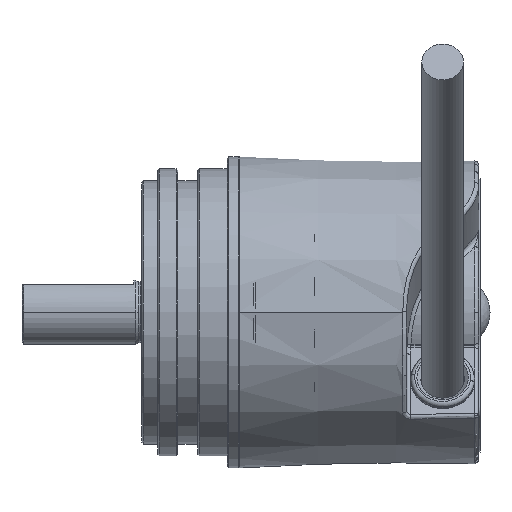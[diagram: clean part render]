
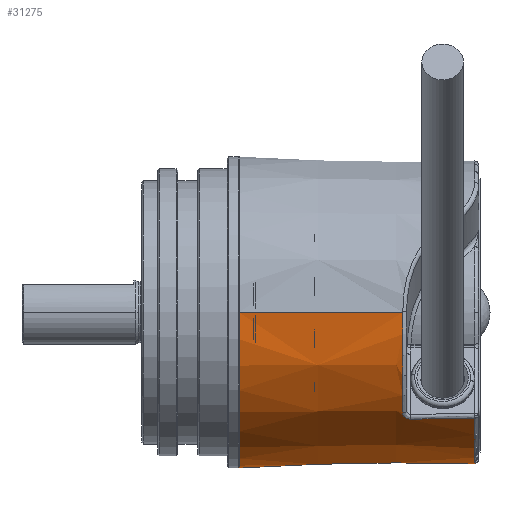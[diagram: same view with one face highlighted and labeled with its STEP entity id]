
A CAD part, front view. The second image highlights one B-rep face of the part: STEP entity #31275.
In plain terms, the highlighted conical face has half-angle 1 degrees and reference radius 18.976 mm.
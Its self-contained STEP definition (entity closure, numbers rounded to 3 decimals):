
#3295 = CARTESIAN_POINT ( 'NONE',  ( 12.2, 19.5, 0. ) ) ;
#3296 = CARTESIAN_POINT ( 'NONE',  ( 12.2, -19.5, 0. ) ) ;
#3360 = CARTESIAN_POINT ( 'NONE',  ( 32.709, -19.142, 0. ) ) ;
#3386 = CARTESIAN_POINT ( 'NONE',  ( 41.709, 18.985, 0. ) ) ;
#3652 = DIRECTION ( 'NONE',  ( -1., 0.017, 0. ) ) ;
#3653 = VECTOR ( 'NONE', #3652, 1000. ) ;
#3654 = CARTESIAN_POINT ( 'NONE',  ( 42.2, 18.976, 0. ) ) ;
#3656 = LINE ( 'NONE', #3654, #3653 ) ;
#3657 = DIRECTION ( 'NONE',  ( -1., -0.017, 0. ) ) ;
#3658 = VECTOR ( 'NONE', #3657, 1000. ) ;
#3659 = CARTESIAN_POINT ( 'NONE',  ( 42.2, -18.976, 0. ) ) ;
#3660 = LINE ( 'NONE', #3659, #3658 ) ;
#3839 = CARTESIAN_POINT ( 'NONE',  ( 41.709, -13.586, -13.261 ) ) ;
#7872 = CARTESIAN_POINT ( 'NONE',  ( 41.709, -13.586, -13.261 ) ) ;
#7874 = CARTESIAN_POINT ( 'NONE',  ( 32.709, -14.397, -12.615 ) ) ;
#7883 = CARTESIAN_POINT ( 'NONE',  ( 33.709, -13.658, -13.387 ) ) ;
#7885 = B_SPLINE_CURVE_WITH_KNOTS ( 'NONE', 3,
 ( #7872, #7977, #7976, #7975, #7974, #7973, #7972, #7971, #7969, #7967 ),
 .UNSPECIFIED., .F., .F.,
 ( 4, 3, 3, 4 ),
 ( 0., 0.001, 0.005, 0.008 ),
 .UNSPECIFIED. ) ;
#7886 = DIRECTION ( 'NONE',  ( 0., 1., 0. ) ) ;
#7887 = DIRECTION ( 'NONE',  ( -1., 0., 0. ) ) ;
#7888 = CARTESIAN_POINT ( 'NONE',  ( 41.709, 0., 0. ) ) ;
#7889 = AXIS2_PLACEMENT_3D ( 'NONE', #7888, #7887, #7886 ) ;
#7896 = CIRCLE ( 'NONE', #7889, 18.985 ) ;
#7936 = DIRECTION ( 'NONE',  ( 0., -1., 0. ) ) ;
#7937 = DIRECTION ( 'NONE',  ( -1., 0., 0. ) ) ;
#7938 = CARTESIAN_POINT ( 'NONE',  ( 32.709, 0., 0. ) ) ;
#7941 = CARTESIAN_POINT ( 'NONE',  ( 33.709, -13.658, -13.387 ) ) ;
#7942 = CARTESIAN_POINT ( 'NONE',  ( 33.572, -13.659, -13.389 ) ) ;
#7943 = CARTESIAN_POINT ( 'NONE',  ( 33.437, -13.681, -13.37 ) ) ;
#7944 = CARTESIAN_POINT ( 'NONE',  ( 33.19, -13.762, -13.293 ) ) ;
#7946 = CARTESIAN_POINT ( 'NONE',  ( 33.079, -13.821, -13.235 ) ) ;
#7947 = CARTESIAN_POINT ( 'NONE',  ( 32.898, -13.961, -13.091 ) ) ;
#7948 = CARTESIAN_POINT ( 'NONE',  ( 32.827, -14.044, -13.005 ) ) ;
#7949 = CARTESIAN_POINT ( 'NONE',  ( 32.733, -14.216, -12.819 ) ) ;
#7950 = CARTESIAN_POINT ( 'NONE',  ( 32.709, -14.307, -12.718 ) ) ;
#7952 = CARTESIAN_POINT ( 'NONE',  ( 32.709, -14.397, -12.615 ) ) ;
#7954 = AXIS2_PLACEMENT_3D ( 'NONE', #7938, #7937, #7936 ) ;
#7961 = CIRCLE ( 'NONE', #7954, 19.142 ) ;
#7964 = B_SPLINE_CURVE_WITH_KNOTS ( 'NONE', 3,
 ( #7952, #7950, #7949, #7948, #7947, #7946, #7944, #7943, #7942, #7941 ),
 .UNSPECIFIED., .F., .F.,
 ( 4, 2, 2, 2, 4 ),
 ( 0., 0., 0.001, 0.001, 0.002 ),
 .UNSPECIFIED. ) ;
#7967 = CARTESIAN_POINT ( 'NONE',  ( 33.709, -13.658, -13.387 ) ) ;
#7969 = CARTESIAN_POINT ( 'NONE',  ( 34.709, -13.649, -13.371 ) ) ;
#7971 = CARTESIAN_POINT ( 'NONE',  ( 35.709, -13.64, -13.356 ) ) ;
#7972 = CARTESIAN_POINT ( 'NONE',  ( 36.71, -13.631, -13.34 ) ) ;
#7973 = CARTESIAN_POINT ( 'NONE',  ( 38.043, -13.619, -13.319 ) ) ;
#7974 = CARTESIAN_POINT ( 'NONE',  ( 39.376, -13.607, -13.298 ) ) ;
#7975 = CARTESIAN_POINT ( 'NONE',  ( 40.709, -13.595, -13.277 ) ) ;
#7976 = CARTESIAN_POINT ( 'NONE',  ( 41.042, -13.592, -13.271 ) ) ;
#7977 = CARTESIAN_POINT ( 'NONE',  ( 41.375, -13.589, -13.266 ) ) ;
#19870 = CONICAL_SURFACE ( 'NONE', #19998, 18.976, 0.017 ) ;
#19886 = FACE_OUTER_BOUND ( 'NONE', #31098, .T. ) ;
#19994 = DIRECTION ( 'NONE',  ( 0., -1., 0. ) ) ;
#19996 = DIRECTION ( 'NONE',  ( -1., 0., 0. ) ) ;
#19997 = CARTESIAN_POINT ( 'NONE',  ( 42.2, 0., 0. ) ) ;
#19998 = AXIS2_PLACEMENT_3D ( 'NONE', #19997, #19996, #19994 ) ;
#21856 = DIRECTION ( 'NONE',  ( 0., -1., 0. ) ) ;
#21857 = DIRECTION ( 'NONE',  ( -1., 0., 0. ) ) ;
#21905 = CARTESIAN_POINT ( 'NONE',  ( 12.2, 0., 0. ) ) ;
#21907 = AXIS2_PLACEMENT_3D ( 'NONE', #21905, #21857, #21856 ) ;
#21910 = CIRCLE ( 'NONE', #21907, 19.5 ) ;
#29897 = EDGE_CURVE ( 'NONE', #41512, #41508, #21910, .T. ) ;
#31098 = EDGE_LOOP ( 'NONE', ( #31099, #31100, #31103, #31107, #31112, #31115, #31116 ) ) ;
#31099 = ORIENTED_EDGE ( 'NONE', *, *, #41584, .F. ) ;
#31100 = ORIENTED_EDGE ( 'NONE', *, *, #31101, .T. ) ;
#31101 = EDGE_CURVE ( 'NONE', #41525, #41617, #7896, .T. ) ;
#31103 = ORIENTED_EDGE ( 'NONE', *, *, #31105, .T. ) ;
#31105 = EDGE_CURVE ( 'NONE', #41617, #31106, #7885, .T. ) ;
#31106 = VERTEX_POINT ( 'NONE', #7883 ) ;
#31107 = ORIENTED_EDGE ( 'NONE', *, *, #31109, .F. ) ;
#31109 = EDGE_CURVE ( 'NONE', #31110, #31106, #7964, .T. ) ;
#31110 = VERTEX_POINT ( 'NONE', #7874 ) ;
#31112 = ORIENTED_EDGE ( 'NONE', *, *, #31113, .T. ) ;
#31113 = EDGE_CURVE ( 'NONE', #31110, #41516, #7961, .T. ) ;
#31115 = ORIENTED_EDGE ( 'NONE', *, *, #41582, .T. ) ;
#31116 = ORIENTED_EDGE ( 'NONE', *, *, #29897, .F. ) ;
#31275 = ADVANCED_FACE ( 'NONE', ( #19886 ), #19870, .T. ) ;
#41508 = VERTEX_POINT ( 'NONE', #3296 ) ;
#41512 = VERTEX_POINT ( 'NONE', #3295 ) ;
#41516 = VERTEX_POINT ( 'NONE', #3360 ) ;
#41525 = VERTEX_POINT ( 'NONE', #3386 ) ;
#41582 = EDGE_CURVE ( 'NONE', #41516, #41508, #3660, .T. ) ;
#41584 = EDGE_CURVE ( 'NONE', #41525, #41512, #3656, .T. ) ;
#41617 = VERTEX_POINT ( 'NONE', #3839 ) ;
